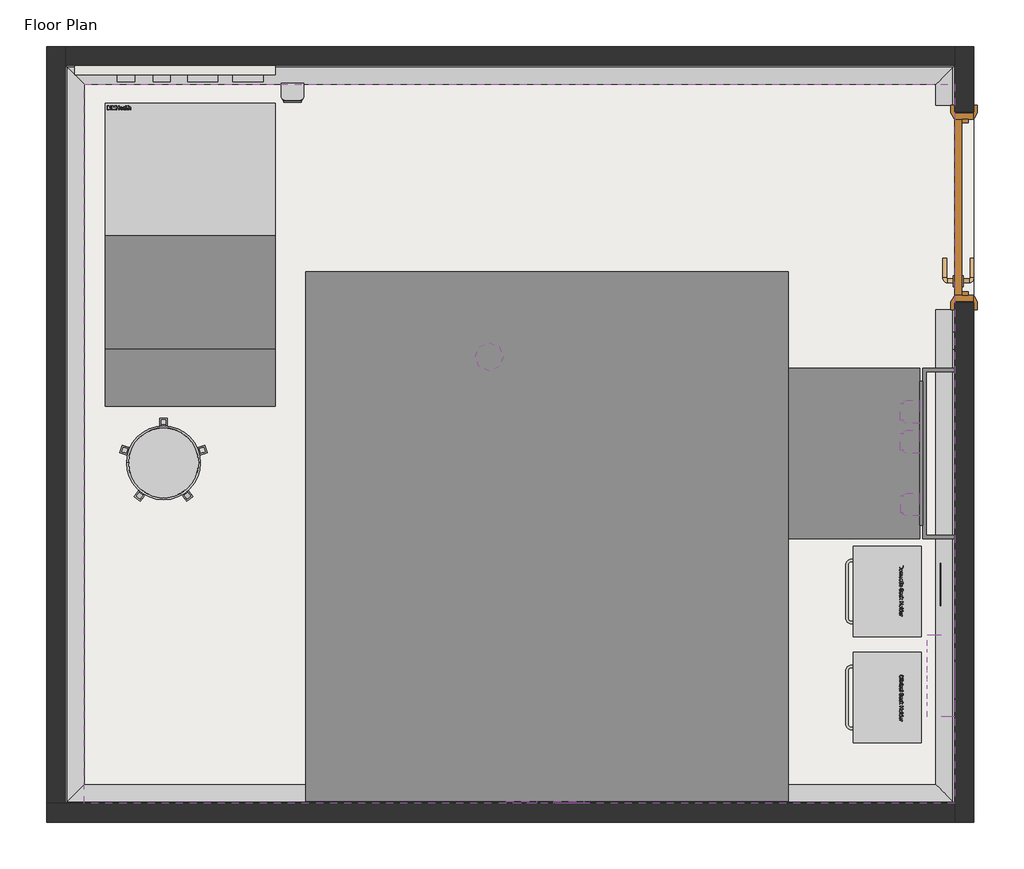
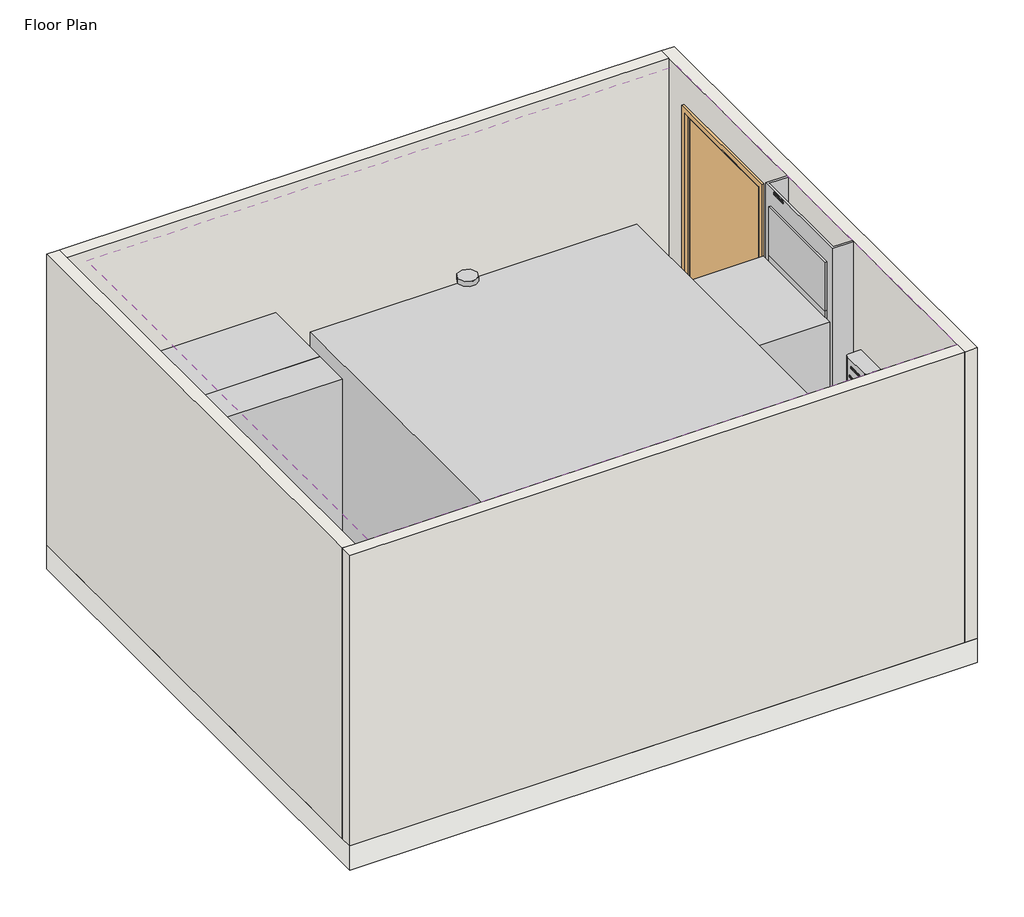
# One storey, incomplete: 15 proxies, 10 furniture elements, 5 walls, 2 flow terminals, 1 covering, 1 door, 1 slab.
"""IFC4 building model written with IfcOpenShell, lengths in millimetres."""

from ifc_helpers import new_model, si_unit, frame, origin, origin_with_axes, place, context, project, spatial, polyline, circle_curve, ellipse_curve, outline, extrude, faceted_brep, transform, mapped, element, save
from ifc_brep_helpers import plane_surface, revolved_surface, advanced_brep
from components import generic_models_abbf64a3, generic_models_e5edc786, generic_models_a98e07a5, bimhealth_electrical_data_point_v1_type_1_559430e2, bimhealth_electrical_double_socket_v1_type_1_a33e6646, bimhealth_electrical_double_socket_v1_type_1_f9b83866, bimhealth_electrical_light_switch_v1_type_1_b5e59f8a, bimhealth_electrical_smoke_detector_v1_bimhealth_electrical_fe9fcb6c, door_1010x2110mm_f9eb5fde, flow_terminal_004a381b, flow_terminal_30861e1c, furniture_3d3374f5, furniture_385ba860, furniture_166ce8d1, furniture_26d36cfe, furniture_197fe330, furniture_fb8e9059, furniture_9a51d5b7, furniture_610823a6, furniture_40be970f

model = new_model("IFC4")

# Units and contexts
model_context = context("Model", 3, world=origin())
ifc_project = project(units=[si_unit("LENGTHUNIT", "METRE", prefix="MILLI")], contexts=[model_context])

# Site, building, storey
site = spatial("IfcSite", under=ifc_project)
building = spatial("IfcBuilding", under=site)
storey = spatial("IfcBuildingStorey", under=building, Name="Floor Plan", Elevation=0.0)

# Proxies
placement = place(None, origin())
element("IfcBuildingElementProxy", 1, Name="Wall Sweeps", at=placement, inside=storey, context=model_context, shape_type="AdvancedBrep", body=[
    advanced_brep(
    [(4605.0, 2005.0, 0.0), (4505.0, 2005.0, 0.0), (4505.0, 2005.0, 10.0), (4595.0, 2005.0, 100.0), (4605.0, 2005.0, 100.0), (4605.0, -605.0, 0.0), (4605.0, -605.0, 100.0), (4595.0, -595.0, 100.0), (4505.0, -505.0, 10.0), (4505.0, -505.0, 0.0)],
    [
        (0, 1),
        (1, 2),
        (2, 3, circle_curve(frame((4505.0, 2005.0, 100.0), z_axis=(0.0, -1.0, 0.0), x_axis=(-1.0, 0.0, 0.0)), 90.0)),
        (3, 4),
        (4, 0),
        (5, 6),
        (6, 7),
        (7, 8, ellipse_curve(frame((4505.0, -505.0, 100.0), z_axis=(0.7071067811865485, 0.7071067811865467, 0.0), x_axis=(0.7071067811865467, -0.7071067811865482, 0.0)), 127.2792206, 90.0)),
        (8, 9),
        (9, 5),
        (4, 6),
        (5, 0),
        (3, 7),
        (2, 8),
        (1, 9),
    ],
    [
        plane_surface(frame((4504.5012438, 2005.0, 0.0), z_axis=(0.0, 1.0, 0.0), x_axis=(0.0, 0.0, -1.0))),
        plane_surface(frame((4605.0, -605.0, 304.8), z_axis=(-0.7071067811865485, -0.7071067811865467, 0.0), x_axis=(-0.7071067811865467, 0.7071067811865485, 0.0))),
        plane_surface(frame((4605.0, 2005.0, 100.0), z_axis=(1.0, 0.0, 0.0), x_axis=(0.0, -1.0, 0.0))),
        plane_surface(frame((4595.0, 2005.0, 100.0), z_axis=(0.0, 0.0, 1.0), x_axis=(0.0, -1.0, 0.0))),
        revolved_surface(polyline([(4415.0, -595.0, 100.0), (4415.0, 2005.0, 100.0)]), (4505.0, 2005.0, 100.0), (0.0, -1.0, 0.0)),
        plane_surface(frame((4505.0, 2005.0, 0.0), z_axis=(-1.0, 0.0, 0.0), x_axis=(0.0, -1.0, 0.0))),
        plane_surface(frame((4605.0, 2005.0, 0.0), z_axis=(0.0, 0.0, -1.0), x_axis=(0.0, -1.0, 0.0))),
    ],
    [
        (0, [[1, 2, 3, 4, 5]]),
        (1, [[6, 7, 8, 9, 10]]),
        (2, [[-5, 11, -6, 12]]),
        (3, [[-4, 13, -7, -11]]),
        (4, [[-3, 14, -8, -13]]),
        (5, [[-2, 15, -9, -14]]),
        (6, [[-1, -12, -10, -15]]),
    ],
),
    advanced_brep(
    [(4605.0, 3295.0, 0.0), (4505.0, 3195.0, 0.0), (4505.0, 3195.0, 10.0), (4595.0, 3285.0, 100.0), (4605.0, 3295.0, 100.0), (4605.0, 3085.0, 0.0), (4605.0, 3085.0, 100.0), (4595.0, 3085.0, 100.0), (4505.0, 3085.0, 10.0), (4505.0, 3085.0, 0.0)],
    [
        (0, 1),
        (1, 2),
        (2, 3, ellipse_curve(frame((4505.0, 3195.0, 100.0), z_axis=(0.7071067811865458, -0.7071067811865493, 0.0), x_axis=(-0.7071067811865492, -0.7071067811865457, 0.0)), 127.2792206, 90.0)),
        (3, 4),
        (4, 0),
        (5, 6),
        (6, 7),
        (7, 8, circle_curve(frame((4505.0, 3085.0, 100.0), z_axis=(0.0, 1.0, 0.0), x_axis=(-1.0, 0.0, 0.0)), 90.0)),
        (8, 9),
        (9, 5),
        (4, 6),
        (5, 0),
        (3, 7),
        (2, 8),
        (1, 9),
    ],
    [
        plane_surface(frame((4605.0, 3295.0, 304.8), z_axis=(-0.7071067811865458, 0.7071067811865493, 0.0), x_axis=(-0.7071067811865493, -0.7071067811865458, 0.0))),
        plane_surface(frame((4504.5012438, 3085.0, 0.0), z_axis=(0.0, -1.0, 0.0), x_axis=(0.0, 0.0, -1.0))),
        plane_surface(frame((4605.0, 3295.0, 100.0), z_axis=(1.0, 0.0, 0.0), x_axis=(0.0, -1.0, 0.0))),
        plane_surface(frame((4595.0, 3285.0, 100.0), z_axis=(0.0, 0.0, 1.0), x_axis=(0.0, -1.0, 0.0))),
        revolved_surface(polyline([(4415.0, 3085.0, 100.0), (4415.0, 3285.0, 100.0)]), (4505.0, 3295.0, 100.0), (0.0, -1.0, 0.0)),
        plane_surface(frame((4505.0, 3195.0, 0.0), z_axis=(-1.0, 0.0, 0.0), x_axis=(0.0, -1.0, 0.0))),
        plane_surface(frame((4605.0, 3295.0, 0.0), z_axis=(0.0, 0.0, -1.0), x_axis=(0.0, -1.0, 0.0))),
    ],
    [
        (0, [[1, 2, 3, 4, 5]]),
        (1, [[6, 7, 8, 9, 10]]),
        (2, [[-5, 11, -6, 12]]),
        (3, [[-4, 13, -7, -11]]),
        (4, [[-3, 14, -8, -13]]),
        (5, [[-2, 15, -9, -14]]),
        (6, [[-1, -12, -10, -15]]),
    ],
),
])
element("IfcBuildingElementProxy", 2, Name="Wall Sweeps", at=placement, inside=storey, context=model_context, shape_type="AdvancedBrep", body=[
    advanced_brep(
    [(4605.0, -605.0, 0.0), (4505.0, -505.0, 0.0), (4505.0, -505.0, 10.0), (4595.0, -595.0, 100.0), (4605.0, -605.0, 100.0), (-95.0, -605.0, 0.0), (-95.0, -605.0, 100.0), (-85.0, -595.0, 100.0), (5.0, -505.0, 10.0), (5.0, -505.0, 0.0)],
    [
        (0, 1),
        (1, 2),
        (2, 3, ellipse_curve(frame((4505.0, -505.0, 100.0), z_axis=(-0.7071067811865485, -0.7071067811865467, 0.0), x_axis=(-0.7071067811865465, 0.7071067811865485, 0.0)), 127.2792206, 90.0)),
        (3, 4),
        (4, 0),
        (5, 6),
        (6, 7),
        (7, 8, ellipse_curve(frame((5.0, -505.0, 100.0), z_axis=(0.707106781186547, -0.707106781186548, 0.0), x_axis=(-0.7071067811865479, -0.707106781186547, 0.0)), 127.2792206, 90.0)),
        (8, 9),
        (9, 5),
        (4, 6),
        (5, 0),
        (3, 7),
        (2, 8),
        (1, 9),
    ],
    [
        plane_surface(frame((4605.0, -605.0, 304.8), z_axis=(0.7071067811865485, 0.7071067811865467, 0.0), x_axis=(-0.7071067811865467, 0.7071067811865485, 0.0))),
        plane_surface(frame((-95.0, -605.0, 304.8), z_axis=(-0.707106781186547, 0.707106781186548, 0.0), x_axis=(0.707106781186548, 0.707106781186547, 0.0))),
        plane_surface(frame((4605.0, -605.0, 100.0), z_axis=(0.0, -1.0, 0.0), x_axis=(-1.0, 0.0, 0.0))),
        plane_surface(frame((4595.0, -595.0, 100.0), z_axis=(0.0, 0.0, 1.0), x_axis=(-1.0, 0.0, 0.0))),
        revolved_surface(polyline([(-85.0, -415.0, 100.0), (4595.0, -415.0, 100.0)]), (4605.0, -505.0, 100.0), (-1.0, 0.0, 0.0)),
        plane_surface(frame((4505.0, -505.0, 0.0), z_axis=(0.0, 1.0, 0.0), x_axis=(-1.0, 0.0, 0.0))),
        plane_surface(frame((4605.0, -605.0, 0.0), z_axis=(0.0, 0.0, -1.0), x_axis=(-1.0, 0.0, 0.0))),
    ],
    [
        (0, [[1, 2, 3, 4, 5]]),
        (1, [[6, 7, 8, 9, 10]]),
        (2, [[-5, 11, -6, 12]]),
        (3, [[-4, 13, -7, -11]]),
        (4, [[-3, 14, -8, -13]]),
        (5, [[-2, 15, -9, -14]]),
        (6, [[-1, -12, -10, -15]]),
    ],
),
])
element("IfcBuildingElementProxy", 3, Name="Wall Sweeps", at=placement, inside=storey, context=model_context, shape_type="AdvancedBrep", body=[
    advanced_brep(
    [(-95.0, -605.0, 0.0), (5.0, -505.0, 0.0), (5.0, -505.0, 10.0), (-85.0, -595.0, 100.0), (-95.0, -605.0, 100.0), (-95.0, 3295.0, 0.0), (-95.0, 3295.0, 100.0), (-85.0, 3285.0, 100.0), (5.0, 3195.0, 10.0), (5.0, 3195.0, 0.0)],
    [
        (0, 1),
        (1, 2),
        (2, 3, ellipse_curve(frame((5.0, -505.0, 100.0), z_axis=(-0.707106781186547, 0.707106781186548, 0.0), x_axis=(0.707106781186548, 0.7071067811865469, 0.0)), 127.2792206, 90.0)),
        (3, 4),
        (4, 0),
        (5, 6),
        (6, 7),
        (7, 8, ellipse_curve(frame((5.0, 3195.0, 100.0), z_axis=(-0.7071067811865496, -0.7071067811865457, 0.0), x_axis=(-0.7071067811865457, 0.7071067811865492, 0.0)), 127.2792206, 90.0)),
        (8, 9),
        (9, 5),
        (4, 6),
        (5, 0),
        (3, 7),
        (2, 8),
        (1, 9),
    ],
    [
        plane_surface(frame((-95.0, -605.0, 304.8), z_axis=(0.707106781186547, -0.707106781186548, 0.0), x_axis=(0.707106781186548, 0.707106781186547, 0.0))),
        plane_surface(frame((-95.0, 3295.0, 304.8), z_axis=(0.7071067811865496, 0.7071067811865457, 0.0), x_axis=(0.7071067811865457, -0.7071067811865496, 0.0))),
        plane_surface(frame((-95.0, -605.0, 100.0), z_axis=(-1.0, 0.0, 0.0), x_axis=(0.0, 1.0, 0.0))),
        plane_surface(frame((-85.0, -595.0, 100.0), z_axis=(0.0, 0.0, 1.0), x_axis=(0.0, 1.0, 0.0))),
        revolved_surface(polyline([(95.0, 3285.0, 100.0), (95.0, -595.0, 100.0)]), (5.0, -605.0, 100.0), (0.0, 1.0, 0.0)),
        plane_surface(frame((5.0, -505.0, 0.0), z_axis=(1.0, 0.0, 0.0), x_axis=(0.0, 1.0, 0.0))),
        plane_surface(frame((-95.0, -605.0, 0.0), z_axis=(0.0, 0.0, -1.0), x_axis=(0.0, 1.0, 0.0))),
    ],
    [
        (0, [[1, 2, 3, 4, 5]]),
        (1, [[6, 7, 8, 9, 10]]),
        (2, [[-5, 11, -6, 12]]),
        (3, [[-4, 13, -7, -11]]),
        (4, [[-3, 14, -8, -13]]),
        (5, [[-2, 15, -9, -14]]),
        (6, [[-1, -12, -10, -15]]),
    ],
),
])
element("IfcBuildingElementProxy", 4, Name="Wall Sweeps", at=placement, inside=storey, context=model_context, shape_type="AdvancedBrep", body=[
    advanced_brep(
    [(-95.0, 3295.0, 0.0), (5.0, 3195.0, 0.0), (5.0, 3195.0, 10.0), (-85.0, 3285.0, 100.0), (-95.0, 3295.0, 100.0), (4605.0, 3295.0, 0.0), (4605.0, 3295.0, 100.0), (4595.0, 3285.0, 100.0), (4505.0, 3195.0, 10.0), (4505.0, 3195.0, 0.0)],
    [
        (0, 1),
        (1, 2),
        (2, 3, ellipse_curve(frame((5.0, 3195.0, 100.0), z_axis=(0.7071067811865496, 0.7071067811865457, 0.0), x_axis=(0.7071067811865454, -0.7071067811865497, 0.0)), 127.2792206, 90.0)),
        (3, 4),
        (4, 0),
        (5, 6),
        (6, 7),
        (7, 8, ellipse_curve(frame((4505.0, 3195.0, 100.0), z_axis=(-0.7071067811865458, 0.7071067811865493, 0.0), x_axis=(0.7071067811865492, 0.7071067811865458, 0.0)), 127.2792206, 90.0)),
        (8, 9),
        (9, 5),
        (4, 6),
        (5, 0),
        (3, 7),
        (2, 8),
        (1, 9),
    ],
    [
        plane_surface(frame((-95.0, 3295.0, 304.8), z_axis=(-0.7071067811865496, -0.7071067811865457, 0.0), x_axis=(0.7071067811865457, -0.7071067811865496, 0.0))),
        plane_surface(frame((4605.0, 3295.0, 304.8), z_axis=(0.7071067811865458, -0.7071067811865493, 0.0), x_axis=(-0.7071067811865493, -0.7071067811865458, 0.0))),
        plane_surface(frame((-95.0, 3295.0, 100.0), z_axis=(0.0, 1.0, 0.0), x_axis=(1.0, 0.0, 0.0))),
        plane_surface(frame((-85.0, 3285.0, 100.0), z_axis=(0.0, 0.0, 1.0), x_axis=(1.0, 0.0, 0.0))),
        revolved_surface(polyline([(4595.0, 3105.0, 100.0), (-85.0, 3105.0, 100.0)]), (-95.0, 3195.0, 100.0), (1.0, 0.0, 0.0)),
        plane_surface(frame((5.0, 3195.0, 0.0), z_axis=(0.0, -1.0, 0.0), x_axis=(1.0, 0.0, 0.0))),
        plane_surface(frame((-95.0, 3295.0, 0.0), z_axis=(0.0, 0.0, -1.0), x_axis=(1.0, 0.0, 0.0))),
    ],
    [
        (0, [[1, 2, 3, 4, 5]]),
        (1, [[6, 7, 8, 9, 10]]),
        (2, [[-5, 11, -6, 12]]),
        (3, [[-4, 13, -7, -11]]),
        (4, [[-3, 14, -8, -13]]),
        (5, [[-2, 15, -9, -14]]),
        (6, [[-1, -12, -10, -15]]),
    ],
),
])
generic_models_shape = generic_models_abbf64a3(model_context)
element("IfcBuildingElementProxy", 5, Name="BIMHealth-Hand_Cream_Dispenser-LOD2A-v1 : BIMHealth-Hand_Cream_Dispenser-LOD2A-v1", ObjectType="BIMHealth-Hand_Cream_Dispenser-LOD2A-v1 : BIMHealth-Hand_Cream_Dispenser-LOD2A-v1", at=placement, inside=storey, context=model_context, shape_type="MappedRepresentation", body=[
    mapped(generic_models_shape, transform((4419.0, 1366.4512852, 150.0), x_axis=(0.0, -1.0000000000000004, 0.0), y_axis=(1.0000000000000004, 0.0, 0.0), z_axis=(0.0, 0.0, 1.0))),
])
generic_models_2_shape = generic_models_e5edc786(model_context)
element("IfcBuildingElementProxy", 6, Name="BIMHealth-Therapist_Stool-LOD2A-v1 : BIMHealth-Therapist_Stool-LOD2A-v1", ObjectType="BIMHealth-Therapist_Stool-LOD2A-v1 : BIMHealth-Therapist_Stool-LOD2A-v1", at=placement, inside=storey, context=model_context, shape_type="MappedRepresentation", body=[
    mapped(generic_models_2_shape, transform((423.2338491, 1195.0, 0.0), x_axis=(1.0, 0.0, 0.0), y_axis=(0.0, 1.0, 0.0), z_axis=(0.0, 0.0, 1.0))),
])
generic_models_3_shape = generic_models_a98e07a5(model_context)
element("IfcBuildingElementProxy", 7, Name="BIMHealth-Danicentre_ppe_Dispenser-LOD2A-v1 : BIMHealth-Danicentre_ppe_Dispenser-LOD2A-v1", ObjectType="BIMHealth-Danicentre_ppe_Dispenser-LOD2A-v1 : BIMHealth-Danicentre_ppe_Dispenser-LOD2A-v1", at=placement, inside=storey, context=model_context, shape_type="MappedRepresentation", body=[
    mapped(generic_models_3_shape, transform((4460.0, -148.0947115, 0.0), x_axis=(0.0, 1.000000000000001, 0.0), y_axis=(-1.000000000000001, 0.0, 0.0), z_axis=(0.0, 0.0, 1.0))),
])
bimhealth_electrical_data_point_v1_type_1_shape = bimhealth_electrical_data_point_v1_type_1_559430e2(model_context)
element("IfcBuildingElementProxy", 8, Name="BIMHealth-Electrical-Data_Point-v1 : Type 1", ObjectType="BIMHealth-Electrical-Data_Point-v1 : Type 1", at=placement, inside=storey, context=model_context, shape_type="MappedRepresentation", body=[
    mapped(bimhealth_electrical_data_point_v1_type_1_shape, transform((395.0, 3270.0, -15.0), x_axis=(-1.0, 0.0, 0.0), y_axis=(0.0, -1.0, 0.0), z_axis=(0.0, 0.0, 1.0))),
])
bimhealth_electrical_double_socket_v1_type_1_shape = bimhealth_electrical_double_socket_v1_type_1_a33e6646(model_context)
element("IfcBuildingElementProxy", 9, Name="BIMHealth-Electrical-Double_Socket-v1 : Type 1", ObjectType="BIMHealth-Electrical-Double_Socket-v1 : Type 1", at=placement, inside=storey, context=model_context, shape_type="MappedRepresentation", body=[
    mapped(bimhealth_electrical_double_socket_v1_type_1_shape, transform((835.0, 3270.0, 285.0), x_axis=(-1.0, 0.0, 0.0), y_axis=(0.0, -1.0, 0.0), z_axis=(0.0, 0.0, 1.0))),
])
element("IfcBuildingElementProxy", 10, Name="BIMHealth-Electrical-Double_Socket-v1 : Type 1", ObjectType="BIMHealth-Electrical-Double_Socket-v1 : Type 1", at=placement, inside=storey, context=model_context, shape_type="MappedRepresentation", body=[
    mapped(bimhealth_electrical_double_socket_v1_type_1_shape, transform((1075.0, 3270.0, 285.0), x_axis=(-1.0, 0.0, 0.0), y_axis=(0.0, -1.0, 0.0), z_axis=(0.0, 0.0, 1.0))),
])
bimhealth_electrical_double_socket_v1_type_1_2_shape = bimhealth_electrical_double_socket_v1_type_1_f9b83866(model_context)
element("IfcBuildingElementProxy", 11, Name="BIMHealth-Electrical-Double_Socket-v1 : Type 1", ObjectType="BIMHealth-Electrical-Double_Socket-v1 : Type 1", at=placement, inside=storey, context=model_context, shape_type="MappedRepresentation", body=[
    mapped(bimhealth_electrical_double_socket_v1_type_1_2_shape, transform((2110.0, -655.0, 750.0), x_axis=(1.0, 0.0, 0.0), y_axis=(0.0, 1.0, 0.0), z_axis=(0.0, 0.0, 1.0))),
])
bimhealth_electrical_light_switch_v1_type_1_shape = bimhealth_electrical_light_switch_v1_type_1_b5e59f8a(model_context)
element("IfcBuildingElementProxy", 12, Name="BIMHealth-Electrical-Light_Switch-v1 : Type 1", ObjectType="BIMHealth-Electrical-Light_Switch-v1 : Type 1", at=placement, inside=storey, context=model_context, shape_type="MappedRepresentation", body=[
    mapped(bimhealth_electrical_light_switch_v1_type_1_shape, transform((4655.0, 1670.0, -60.0), x_axis=(0.0, 1.0, 0.0), y_axis=(-1.0, 0.0, 0.0), z_axis=(0.0, 0.0, 1.0))),
])
bimhealth_electrical_smoke_detector_v1_bimhealth_electrical_shape = bimhealth_electrical_smoke_detector_v1_bimhealth_electrical_fe9fcb6c(model_context)
element("IfcBuildingElementProxy", 13, Name="BIMHealth-Electrical-Smoke_Detector-v1 : BIMHealth-Electrical-Smoke_Detector-v1", ObjectType="BIMHealth-Electrical-Smoke_Detector-v1 : BIMHealth-Electrical-Smoke_Detector-v1", at=placement, inside=storey, context=model_context, shape_type="MappedRepresentation", body=[
    mapped(bimhealth_electrical_smoke_detector_v1_bimhealth_electrical_shape, transform((2145.0, 1755.0, -38.4), x_axis=(1.0, 0.0, 0.0), y_axis=(0.0, 1.0, 0.0), z_axis=(0.0, 0.0, 1.0))),
])
element("IfcBuildingElementProxy", 14, Name="BIMHealth-Electrical-Telephone_Point-v1 : Type 1", ObjectType="BIMHealth-Electrical-Telephone_Point-v1 : Type 1", at=placement, inside=storey, context=model_context, shape_type="MappedRepresentation", body=[
    mapped(bimhealth_electrical_data_point_v1_type_1_shape, transform((585.0, 3270.0, -15.0), x_axis=(-1.0, 0.0, 0.0), y_axis=(0.0, -1.0, 0.0), z_axis=(0.0, 0.0, 1.0))),
])
element("IfcBuildingElementProxy", 15, Name="BIMHealth-Electrical-Fused_Spur.v1 : Type 1", ObjectType="BIMHealth-Electrical-Fused_Spur.v1 : Type 1", at=placement, inside=storey, context=model_context, shape_type="MappedRepresentation", body=[
    mapped(bimhealth_electrical_double_socket_v1_type_1_2_shape, transform((2360.0, -655.0, 750.0), x_axis=(1.0, 0.0, 0.0), y_axis=(0.0, 1.0, 0.0), z_axis=(0.0, 0.0, 1.0))),
])

# Covering
element("IfcCovering", 16, ObjectType="BIMHealth - Generic Ceiling", at=placement, inside=storey, context=model_context, shape_type="SweptSolid", body=[
    extrude(outline(polyline([(4605.0, 3195.0), (4605.0, -605.0), (5.0, -605.0), (5.0, 3195.0), (4605.0, 3195.0)])), frame((0.0, 0.0, 2400.0), z_axis=(0.0, 0.0, 1.0), x_axis=(1.0, 0.0, 0.0)), (0.0, 0.0, 1.0), 52.0),
])

# Door
door_1010x2110mm_shape = door_1010x2110mm_f9eb5fde(model_context)
element("IfcDoor", 17, ObjectType="BIMHealth-Single_Door-LOD2A-v1 : 1010x2110mm", at=placement, inside=storey, context=model_context, shape_type="MappedRepresentation", body=[
    mapped(door_1010x2110mm_shape, transform((4655.0, 2545.0, 0.0), x_axis=(0.0, 1.0, 0.0), y_axis=(-1.0, 0.0, 0.0), z_axis=(0.0, 0.0, 1.0))),
])

# Flow terminals
flow_terminal_shape = flow_terminal_004a381b(model_context)
element("IfcFlowTerminal", 18, ObjectType="BIMHealth-Taps_IPS-LOD2A-v1 : BIMHealth-Taps_IPS-LOD2A-v1", at=placement, inside=storey, context=model_context, shape_type="MappedRepresentation", body=[
    mapped(flow_terminal_shape, transform((4360.8456379, 1343.9079791, 1022.0), x_axis=(0.0, -1.0000000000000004, 0.0), y_axis=(1.0000000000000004, 0.0, 0.0), z_axis=(0.0, 0.0, 1.0))),
])
flow_terminal_2_shape = flow_terminal_30861e1c(model_context)
element("IfcFlowTerminal", 19, ObjectType="BIMHealth-Wash_basin-LOD2A-v1 : BIMHealth-Wash_basin-LOD2A-v1", at=placement, inside=storey, context=model_context, shape_type="MappedRepresentation", body=[
    mapped(flow_terminal_2_shape, transform((4419.0, 1494.9129841, 500.0), x_axis=(0.0, -1.0, 0.0), y_axis=(1.0, 0.0, 0.0), z_axis=(0.0, 0.0, 1.0))),
])

# Furniture
furniture_shape = furniture_3d3374f5(model_context)
element("IfcFurniture", 20, ObjectType="BIMHealth-Washstation-LOD2A-v1 : BIMHealth-Washstation-LOD2A-v1", at=placement, inside=storey, context=model_context, shape_type="MappedRepresentation", body=[
    mapped(furniture_shape, transform((4605.0, 794.9129841, 0.0), x_axis=(0.0, -1.0000000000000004, 0.0), y_axis=(1.0000000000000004, 0.0, 0.0), z_axis=(0.0, 0.0, 1.0))),
])
furniture_2_shape = furniture_385ba860(model_context)
element("IfcFurniture", 21, ObjectType="BIMHealth-Alcohol_gel_dispenser-LOD2A-v1 : BIMHealth-Alcohol_gel_dispenser-LOD2A-v1", at=placement, inside=storey, context=model_context, shape_type="MappedRepresentation", body=[
    mapped(furniture_2_shape, transform((4419.0, 1034.9129841, 150.0), x_axis=(0.0, -1.0, 0.0), y_axis=(1.0, 0.0, 0.0), z_axis=(0.0, 0.0, 1.0))),
])
element("IfcFurniture", 22, ObjectType="BIMHealth-Alcohol_gel_dispenser-LOD2A-v1 : BIMHealth-Alcohol_gel_dispenser-LOD2A-v1", at=placement, inside=storey, context=model_context, shape_type="MappedRepresentation", body=[
    mapped(furniture_2_shape, transform((1044.9043831, 3200.0, -300.0), x_axis=(1.0, 0.0, 0.0), y_axis=(0.0, 1.0, 0.0), z_axis=(0.0, 0.0, 1.0))),
])
furniture_3_shape = furniture_166ce8d1(model_context)
element("IfcFurniture", 23, ObjectType="BIMHealth-Paper_Towel_Dispenser-LOD2A-v1 : BIMHealth-Paper_Towel_Dispenser-LOD2A-v1", at=placement, inside=storey, context=model_context, shape_type="MappedRepresentation", body=[
    mapped(furniture_3_shape, transform((4605.0, 692.4627557, 20.0), x_axis=(0.0, -1.0000000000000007, 0.0), y_axis=(1.0000000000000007, 0.0, 0.0), z_axis=(0.0, 0.0, 1.0))),
])
furniture_4_shape = furniture_26d36cfe(model_context)
element("IfcFurniture", 24, ObjectType="BIMHealth-Soap_Dispenser-LOD2A-v1 : BIMHealth-Soap_Dispenser-LOD2A-v1", at=placement, inside=storey, context=model_context, shape_type="MappedRepresentation", body=[
    mapped(furniture_4_shape, transform((4419.0, 1524.9129841, 150.0), x_axis=(0.0, -1.0, 0.0), y_axis=(1.0, 0.0, 0.0), z_axis=(0.0, 0.0, 1.0))),
])
furniture_5_shape = furniture_197fe330(model_context)
element("IfcFurniture", 25, ObjectType="BIMHealth-Sack_Holder_Domestic-LOD2A-v1 : BIMHealth-Sack_Holder_Domestic-LOD2A-v1", at=placement, inside=storey, context=model_context, shape_type="MappedRepresentation", body=[
    mapped(furniture_5_shape, transform((4409.0, 735.0, 0.0), x_axis=(0.0, -1.0000000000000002, 0.0), y_axis=(1.0000000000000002, 0.0, 0.0), z_axis=(0.0, 0.0, 1.0))),
])
furniture_6_shape = furniture_fb8e9059(model_context)
element("IfcFurniture", 26, ObjectType="BIMHealth-Chair_Consultant-LOD2A-v1 : BIMHealth-Chair_Consultant-LOD2A-v1", at=placement, inside=storey, context=model_context, shape_type="MappedRepresentation", body=[
    mapped(furniture_6_shape, transform((800.0, 1777.7673619, 0.0), x_axis=(-1.0000000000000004, 0.0, 0.0), y_axis=(0.0, -1.0000000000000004, 0.0), z_axis=(0.0, 0.0, 1.0))),
])
furniture_7_shape = furniture_9a51d5b7(model_context)
element("IfcFurniture", 27, ObjectType="BIMHealth-Desk_Consultant-LOD2A-v1 : BIMHealth-Desk_Consultant-LOD2A-v1", at=placement, inside=storey, context=model_context, shape_type="MappedRepresentation", body=[
    mapped(furniture_7_shape, transform((115.0, 3095.0, 0.0), x_axis=(1.0, 0.0, 0.0), y_axis=(0.0, 1.0, 0.0), z_axis=(0.0, 0.0, 1.0))),
])
furniture_8_shape = furniture_610823a6(model_context)
element("IfcFurniture", 28, ObjectType="BIMHealth-Sack_Holder_Clinical-LOD2A-v1 : BIMHealth-Sack_Holder_Clinical-LOD2A-v1", at=placement, inside=storey, context=model_context, shape_type="MappedRepresentation", body=[
    mapped(furniture_8_shape, transform((4409.0, 175.0, 0.0), x_axis=(0.0, -1.0000000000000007, 0.0), y_axis=(1.0000000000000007, 0.0, 0.0), z_axis=(0.0, 0.0, 1.0))),
])
furniture_9_shape = furniture_40be970f(model_context)
element("IfcFurniture", 29, ObjectType="BIMHealth-Couch_Examination_Paper_Towel-LOD2A-v1 : BIMHealth-Couch_Examination_Paper_Towel-LOD2A-v1", at=placement, inside=storey, context=model_context, shape_type="MappedRepresentation", body=[
    mapped(furniture_9_shape, transform((2825.0, -495.0, 0.0), x_axis=(-1.000000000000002, 0.0, 0.0), y_axis=(0.0, -1.000000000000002, 0.0), z_axis=(0.0, 0.0, 1.0))),
])

# Slab
element("IfcSlab", 30, ObjectType="BIMHealth - Generic Floor", at=placement, inside=storey, context=model_context, shape_type="SweptSolid", body=[
    extrude(outline(polyline([(4705.0, 3395.0), (4705.0, -705.0), (-195.0, -705.0), (-195.0, 3395.0), (4705.0, 3395.0)])), frame((0.0, 0.0, -200.0), z_axis=(0.0, 0.0, 1.0), x_axis=(1.0, 0.0, 0.0)), (0.0, 0.0, 1.0), 200.0),
])

# Walls
element("IfcWall", 31, ObjectType="BIMHealth - Generic Wall - Trunking", at=placement, inside=storey, context=model_context, shape_type="SweptSolid", body=[
    extrude(outline(polyline([(1015.0, 3245.0), (-45.0, 3245.0), (-45.0, 3295.0), (1015.0, 3295.0), (1015.0, 3245.0)])), frame((0.0, 0.0, 700.0), z_axis=(0.0, 0.0, 1.0), x_axis=(1.0, 0.0, 0.0)), (0.0, 0.0, 1.0), 150.0),
])
element("IfcWall", 32, ObjectType="BIMHealth - Generic Wall", at=placement, inside=storey, context=model_context, shape_type="Brep", body=[
    faceted_brep([(4605.0, -705.0, 2400.0), (4605.0, -605.0, 2400.0), (4605.0, 3295.0, 2400.0), (4605.0, 3395.0, 2400.0), (4605.0, 3395.0, 0.0), (4605.0, 3295.0, 0.0), (4605.0, 3085.0, 0.0), (4605.0, 3050.0, 0.0), (4605.0, 3050.0, 2110.0), (4605.0, 2040.0, 2110.0), (4605.0, 2040.0, 0.0), (4605.0, 2005.0, 0.0), (4605.0, -605.0, 0.0), (4605.0, -705.0, 0.0), (4705.0, 3395.0, 2400.0), (4705.0, -705.0, 2400.0), (4705.0, -705.0, 0.0), (4705.0, 2040.0, 0.0), (4705.0, 2040.0, 2110.0), (4705.0, 3050.0, 2110.0), (4705.0, 3050.0, 0.0), (4705.0, 3395.0, 0.0)], [[[0, 1, 2, 3, 4, 5, 6, 7, 8, 9, 10, 11, 12, 13]], [[14, 15, 16, 17, 18, 19, 20, 21]], [[16, 13, 12, 11, 10, 17]], [[4, 21, 20, 7, 6, 5]], [[3, 2, 1, 0, 15, 14]], [[0, 13, 16, 15]], [[19, 8, 7, 20]], [[8, 19, 18, 9]], [[9, 18, 17, 10]], [[4, 3, 14, 21]]]),
])
element("IfcWall", 33, ObjectType="BIMHealth - Generic Wall", at=placement, inside=storey, context=model_context, shape_type="Brep", body=[
    faceted_brep([(4605.0, -605.0, 0.0), (-95.0, -605.0, 0.0), (-195.0, -605.0, 0.0), (-195.0, -605.0, 2400.0), (-95.0, -605.0, 2400.0), (4605.0, -605.0, 2400.0), (4605.0, -705.0, 0.0), (4605.0, -705.0, 2400.0), (-195.0, -705.0, 2400.0), (-195.0, -705.0, 0.0)], [[[0, 1, 2, 3, 4, 5]], [[6, 7, 8, 9]], [[2, 1, 0, 6, 9]], [[5, 4, 3, 8, 7]], [[0, 5, 7, 6]], [[3, 2, 9, 8]]]),
])
element("IfcWall", 34, ObjectType="BIMHealth - Generic Wall", at=placement, inside=storey, context=model_context, shape_type="Brep", body=[
    faceted_brep([(-95.0, -605.0, 0.0), (-95.0, 3295.0, 0.0), (-95.0, 3395.0, 0.0), (-95.0, 3395.0, 2400.0), (-95.0, 3295.0, 2400.0), (-95.0, -605.0, 2400.0), (-195.0, -605.0, 0.0), (-195.0, -605.0, 2400.0), (-195.0, 3395.0, 2400.0), (-195.0, 3395.0, 0.0)], [[[0, 1, 2, 3, 4, 5]], [[6, 7, 8, 9]], [[2, 1, 0, 6, 9]], [[5, 4, 3, 8, 7]], [[0, 5, 7, 6]], [[3, 2, 9, 8]]]),
])
element("IfcWall", 35, ObjectType="BIMHealth - Generic Wall", at=placement, inside=storey, context=model_context, shape_type="SweptSolid", body=[
    extrude(outline(polyline([(4605.0, 3295.0), (-95.0, 3295.0), (-95.0, 3395.0), (4605.0, 3395.0), (4605.0, 3295.0)])), origin_with_axes(), (0.0, 0.0, 1.0), 2400.0),
])

save(model, "model.ifc")
